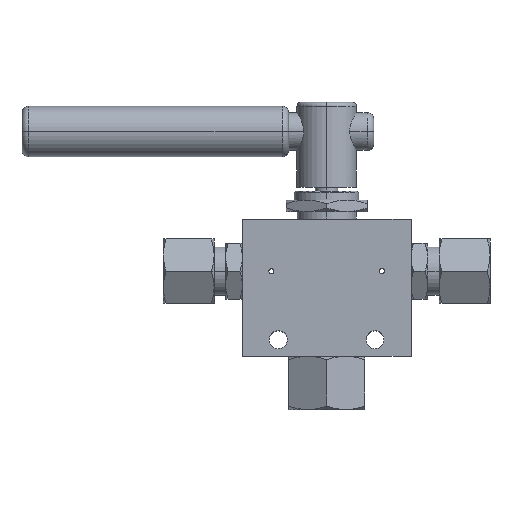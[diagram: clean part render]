
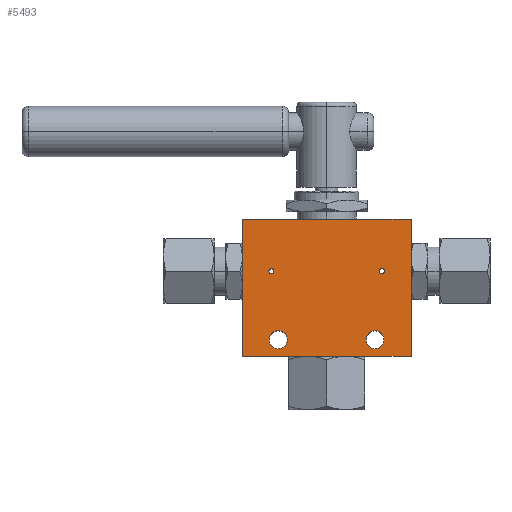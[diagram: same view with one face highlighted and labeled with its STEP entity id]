
A CAD part, top view. The second image highlights one B-rep face of the part: STEP entity #5493.
In plain terms, the highlighted planar face has unit normal (0, 0, 1).
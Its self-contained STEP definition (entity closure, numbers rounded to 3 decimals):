
#46 = DIRECTION ( 'NONE',  ( 1., 0., 0. ) ) ;
#97 = FACE_OUTER_BOUND ( 'NONE', #5637, .T. ) ;
#182 = CARTESIAN_POINT ( 'NONE',  ( -22.55, -20.5, 19. ) ) ;
#240 = DIRECTION ( 'NONE',  ( 0., 0., -1. ) ) ;
#281 = EDGE_CURVE ( 'NONE', #1706, #2313, #1124, .T. ) ;
#363 = VERTEX_POINT ( 'NONE', #3407 ) ;
#419 = DIRECTION ( 'NONE',  ( 1., 0., 0. ) ) ;
#457 = EDGE_CURVE ( 'NONE', #5328, #633, #3109, .T. ) ;
#523 = EDGE_CURVE ( 'NONE', #4443, #5009, #5909, .T. ) ;
#633 = VERTEX_POINT ( 'NONE', #182 ) ;
#647 = AXIS2_PLACEMENT_3D ( 'NONE', #3743, #4705, #1651 ) ;
#679 = DIRECTION ( 'NONE',  ( -1., 0., 0. ) ) ;
#688 = ORIENTED_EDGE ( 'NONE', *, *, #2787, .T. ) ;
#758 = CIRCLE ( 'NONE', #5917, 1. ) ;
#925 = CARTESIAN_POINT ( 'NONE',  ( -33.25, -27., 19. ) ) ;
#980 = DIRECTION ( 'NONE',  ( 0., 0., 1. ) ) ;
#982 = CARTESIAN_POINT ( 'NONE',  ( -20.75, 6.5, 19. ) ) ;
#1116 = DIRECTION ( 'NONE',  ( 0., 0., 1. ) ) ;
#1124 = CIRCLE ( 'NONE', #2227, 1. ) ;
#1222 = ORIENTED_EDGE ( 'NONE', *, *, #523, .T. ) ;
#1246 = EDGE_LOOP ( 'NONE', ( #6664, #1484 ) ) ;
#1383 = EDGE_LOOP ( 'NONE', ( #2580, #5158 ) ) ;
#1448 = DIRECTION ( 'NONE',  ( 1., 0., 0. ) ) ;
#1484 = ORIENTED_EDGE ( 'NONE', *, *, #6515, .F. ) ;
#1550 = CARTESIAN_POINT ( 'NONE',  ( -19.05, -20.5, 19. ) ) ;
#1571 = CARTESIAN_POINT ( 'NONE',  ( -21.75, 6.5, 19. ) ) ;
#1585 = CARTESIAN_POINT ( 'NONE',  ( -33.25, -27., 19. ) ) ;
#1613 = LINE ( 'NONE', #4631, #6610 ) ;
#1651 = DIRECTION ( 'NONE',  ( 1., 0., 0. ) ) ;
#1685 = AXIS2_PLACEMENT_3D ( 'NONE', #1550, #6168, #1448 ) ;
#1706 = VERTEX_POINT ( 'NONE', #5521 ) ;
#1730 = DIRECTION ( 'NONE',  ( 0., 1., 0. ) ) ;
#1773 = PLANE ( 'NONE',  #3174 ) ;
#1838 = VERTEX_POINT ( 'NONE', #982 ) ;
#1876 = AXIS2_PLACEMENT_3D ( 'NONE', #3208, #980, #6315 ) ;
#1919 = ORIENTED_EDGE ( 'NONE', *, *, #4006, .T. ) ;
#2077 = CARTESIAN_POINT ( 'NONE',  ( 19.05, -20.5, 19. ) ) ;
#2110 = ORIENTED_EDGE ( 'NONE', *, *, #6325, .F. ) ;
#2187 = FACE_BOUND ( 'NONE', #1246, .T. ) ;
#2220 = FACE_BOUND ( 'NONE', #5751, .T. ) ;
#2227 = AXIS2_PLACEMENT_3D ( 'NONE', #6416, #4743, #3783 ) ;
#2313 = VERTEX_POINT ( 'NONE', #5045 ) ;
#2580 = ORIENTED_EDGE ( 'NONE', *, *, #4076, .F. ) ;
#2604 = DIRECTION ( 'NONE',  ( 1., 0., 0. ) ) ;
#2622 = VERTEX_POINT ( 'NONE', #6162 ) ;
#2641 = CARTESIAN_POINT ( 'NONE',  ( -21.75, 6.5, 19. ) ) ;
#2738 = FACE_BOUND ( 'NONE', #1383, .T. ) ;
#2787 = EDGE_CURVE ( 'NONE', #363, #4199, #1613, .T. ) ;
#2858 = CARTESIAN_POINT ( 'NONE',  ( -33.25, 27., 19. ) ) ;
#2916 = DIRECTION ( 'NONE',  ( 0., -1., 0. ) ) ;
#2958 = EDGE_CURVE ( 'NONE', #5009, #363, #5362, .T. ) ;
#3109 = CIRCLE ( 'NONE', #1685, 3.5 ) ;
#3174 = AXIS2_PLACEMENT_3D ( 'NONE', #5405, #240, #679 ) ;
#3208 = CARTESIAN_POINT ( 'NONE',  ( -19.05, -20.5, 19. ) ) ;
#3257 = EDGE_CURVE ( 'NONE', #633, #5328, #5058, .T. ) ;
#3381 = AXIS2_PLACEMENT_3D ( 'NONE', #2077, #6349, #5193 ) ;
#3406 = ORIENTED_EDGE ( 'NONE', *, *, #281, .F. ) ;
#3407 = CARTESIAN_POINT ( 'NONE',  ( 33.25, 27., 19. ) ) ;
#3462 = AXIS2_PLACEMENT_3D ( 'NONE', #2641, #1116, #4726 ) ;
#3489 = CIRCLE ( 'NONE', #647, 3.5 ) ;
#3521 = CARTESIAN_POINT ( 'NONE',  ( -22.75, 6.5, 19. ) ) ;
#3593 = DIRECTION ( 'NONE',  ( 0., 0., 1. ) ) ;
#3597 = CIRCLE ( 'NONE', #3381, 3.5 ) ;
#3623 = FACE_BOUND ( 'NONE', #4444, .T. ) ;
#3743 = CARTESIAN_POINT ( 'NONE',  ( 19.05, -20.5, 19. ) ) ;
#3783 = DIRECTION ( 'NONE',  ( 1., 0., 0. ) ) ;
#3914 = ORIENTED_EDGE ( 'NONE', *, *, #3257, .F. ) ;
#3972 = CARTESIAN_POINT ( 'NONE',  ( -15.55, -20.5, 19. ) ) ;
#4006 = EDGE_CURVE ( 'NONE', #4199, #4443, #4008, .T. ) ;
#4008 = LINE ( 'NONE', #925, #5344 ) ;
#4076 = EDGE_CURVE ( 'NONE', #2622, #5539, #3489, .T. ) ;
#4199 = VERTEX_POINT ( 'NONE', #2858 ) ;
#4230 = ORIENTED_EDGE ( 'NONE', *, *, #2958, .T. ) ;
#4371 = VERTEX_POINT ( 'NONE', #3521 ) ;
#4405 = CARTESIAN_POINT ( 'NONE',  ( 33.25, -27., 19. ) ) ;
#4443 = VERTEX_POINT ( 'NONE', #4818 ) ;
#4444 = EDGE_LOOP ( 'NONE', ( #2110, #3406 ) ) ;
#4596 = DIRECTION ( 'NONE',  ( -1., 0., 0. ) ) ;
#4631 = CARTESIAN_POINT ( 'NONE',  ( -33.25, 27., 19. ) ) ;
#4705 = DIRECTION ( 'NONE',  ( 0., 0., 1. ) ) ;
#4726 = DIRECTION ( 'NONE',  ( 1., 0., 0. ) ) ;
#4743 = DIRECTION ( 'NONE',  ( 0., 0., 1. ) ) ;
#4759 = EDGE_CURVE ( 'NONE', #4371, #1838, #758, .T. ) ;
#4818 = CARTESIAN_POINT ( 'NONE',  ( -33.25, -27., 19. ) ) ;
#4980 = VECTOR ( 'NONE', #46, 1000. ) ;
#5009 = VERTEX_POINT ( 'NONE', #6623 ) ;
#5045 = CARTESIAN_POINT ( 'NONE',  ( 20.75, 6.5, 19. ) ) ;
#5058 = CIRCLE ( 'NONE', #1876, 3.5 ) ;
#5158 = ORIENTED_EDGE ( 'NONE', *, *, #5728, .F. ) ;
#5193 = DIRECTION ( 'NONE',  ( 1., 0., 0. ) ) ;
#5202 = ORIENTED_EDGE ( 'NONE', *, *, #457, .F. ) ;
#5328 = VERTEX_POINT ( 'NONE', #3972 ) ;
#5344 = VECTOR ( 'NONE', #2916, 1000. ) ;
#5362 = LINE ( 'NONE', #4405, #6616 ) ;
#5405 = CARTESIAN_POINT ( 'NONE',  ( 0., 0., 19. ) ) ;
#5458 = AXIS2_PLACEMENT_3D ( 'NONE', #6082, #3593, #419 ) ;
#5493 = ADVANCED_FACE ( 'NONE', ( #97, #2187, #3623, #2220, #2738 ), #1773, .F. ) ;
#5521 = CARTESIAN_POINT ( 'NONE',  ( 22.75, 6.5, 19. ) ) ;
#5539 = VERTEX_POINT ( 'NONE', #5968 ) ;
#5637 = EDGE_LOOP ( 'NONE', ( #4230, #688, #1919, #1222 ) ) ;
#5728 = EDGE_CURVE ( 'NONE', #5539, #2622, #3597, .T. ) ;
#5751 = EDGE_LOOP ( 'NONE', ( #3914, #5202 ) ) ;
#5909 = LINE ( 'NONE', #1585, #4980 ) ;
#5917 = AXIS2_PLACEMENT_3D ( 'NONE', #1571, #6779, #2604 ) ;
#5968 = CARTESIAN_POINT ( 'NONE',  ( 22.55, -20.5, 19. ) ) ;
#6082 = CARTESIAN_POINT ( 'NONE',  ( 21.75, 6.5, 19. ) ) ;
#6162 = CARTESIAN_POINT ( 'NONE',  ( 15.55, -20.5, 19. ) ) ;
#6168 = DIRECTION ( 'NONE',  ( 0., 0., 1. ) ) ;
#6315 = DIRECTION ( 'NONE',  ( 1., 0., 0. ) ) ;
#6325 = EDGE_CURVE ( 'NONE', #2313, #1706, #6477, .T. ) ;
#6349 = DIRECTION ( 'NONE',  ( 0., 0., 1. ) ) ;
#6416 = CARTESIAN_POINT ( 'NONE',  ( 21.75, 6.5, 19. ) ) ;
#6446 = CIRCLE ( 'NONE', #3462, 1. ) ;
#6477 = CIRCLE ( 'NONE', #5458, 1. ) ;
#6515 = EDGE_CURVE ( 'NONE', #1838, #4371, #6446, .T. ) ;
#6610 = VECTOR ( 'NONE', #4596, 1000. ) ;
#6616 = VECTOR ( 'NONE', #1730, 1000. ) ;
#6623 = CARTESIAN_POINT ( 'NONE',  ( 33.25, -27., 19. ) ) ;
#6664 = ORIENTED_EDGE ( 'NONE', *, *, #4759, .F. ) ;
#6779 = DIRECTION ( 'NONE',  ( 0., 0., 1. ) ) ;
